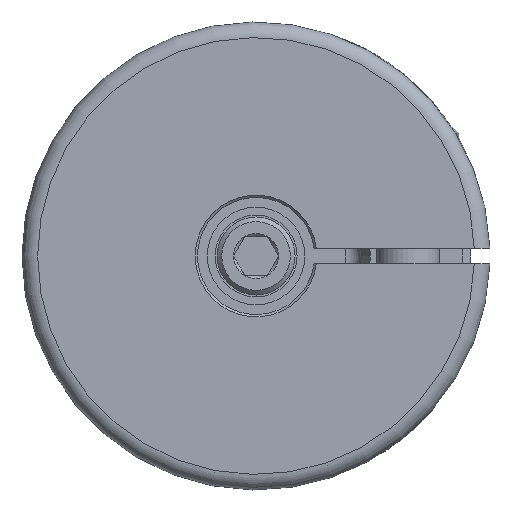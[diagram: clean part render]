
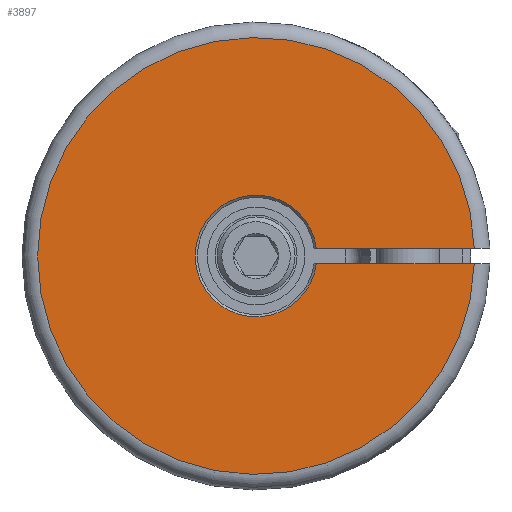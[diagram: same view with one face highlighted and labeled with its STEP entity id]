
A CAD part, left-side view. The second image highlights one B-rep face of the part: STEP entity #3897.
In plain terms, the highlighted planar face has unit normal (-1, 0, 0).
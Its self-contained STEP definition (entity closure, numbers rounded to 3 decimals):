
#160=PLANE('',#4742);
#230=CIRCLE('',#4743,28.);
#231=CIRCLE('',#4744,7.8);
#545=LINE('',#6689,#683);
#546=LINE('',#6694,#684);
#683=VECTOR('',#5336,1000.);
#684=VECTOR('',#5339,1000.);
#825=ORIENTED_EDGE('',*,*,#2015,.T.);
#826=ORIENTED_EDGE('',*,*,#2016,.F.);
#827=ORIENTED_EDGE('',*,*,#2017,.T.);
#828=ORIENTED_EDGE('',*,*,#2018,.T.);
#2015=EDGE_CURVE('',#2610,#2611,#545,.T.);
#2016=EDGE_CURVE('',#2612,#2611,#230,.T.);
#2017=EDGE_CURVE('',#2612,#2613,#546,.T.);
#2018=EDGE_CURVE('',#2613,#2610,#231,.T.);
#2610=VERTEX_POINT('',#6690);
#2611=VERTEX_POINT('',#6691);
#2612=VERTEX_POINT('',#6693);
#2613=VERTEX_POINT('',#6695);
#3143=EDGE_LOOP('',(#825,#826,#827,#828));
#3478=FACE_BOUND('',#3143,.T.);
#3897=ADVANCED_FACE('',(#3478),#160,.F.);
#4742=AXIS2_PLACEMENT_3D('',#6688,#5334,#5335);
#4743=AXIS2_PLACEMENT_3D('',#6692,#5337,#5338);
#4744=AXIS2_PLACEMENT_3D('',#6696,#5340,#5341);
#5334=DIRECTION('',(1.,0.,0.));
#5335=DIRECTION('',(0.,0.,-1.));
#5336=DIRECTION('',(0.,-1.,0.));
#5337=DIRECTION('',(1.,0.,0.));
#5338=DIRECTION('',(0.,0.,-1.));
#5339=DIRECTION('',(0.,1.,0.));
#5340=DIRECTION('',(1.,0.,0.));
#5341=DIRECTION('',(0.,0.,-1.));
#6688=CARTESIAN_POINT('',(0.,0.,0.));
#6689=CARTESIAN_POINT('',(0.,0.,1.));
#6690=CARTESIAN_POINT('',(0.,-7.736,1.));
#6691=CARTESIAN_POINT('',(0.,-27.982,1.));
#6692=CARTESIAN_POINT('',(0.,0.,0.));
#6693=CARTESIAN_POINT('',(0.,-27.982,-1.));
#6694=CARTESIAN_POINT('',(0.,-31.,-1.));
#6695=CARTESIAN_POINT('',(0.,-7.736,-1.));
#6696=CARTESIAN_POINT('',(0.,0.,0.));
